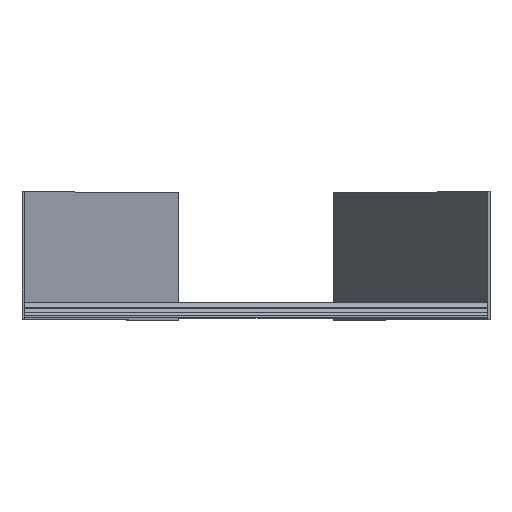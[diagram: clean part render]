
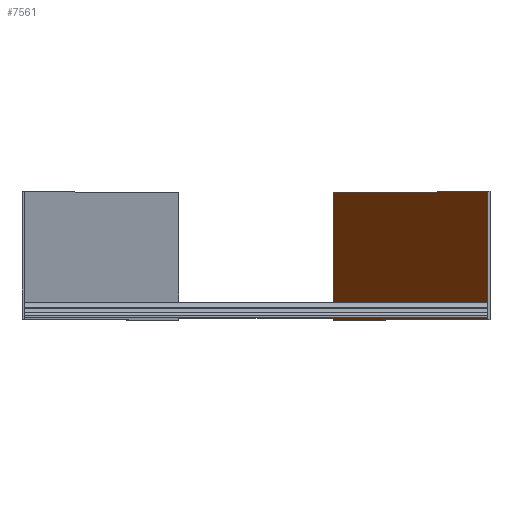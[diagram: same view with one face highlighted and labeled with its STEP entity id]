
A CAD part, top view. The second image highlights one B-rep face of the part: STEP entity #7561.
In plain terms, the highlighted planar face has unit normal (-0.881, 0, 0.472).
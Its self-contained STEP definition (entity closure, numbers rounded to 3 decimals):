
#89 = CARTESIAN_POINT ( 'NONE',  ( 224.822, 0., -0.332 ) ) ;
#216 = VECTOR ( 'NONE', #3636, 1000. ) ;
#492 = CARTESIAN_POINT ( 'NONE',  ( 75.415, 0., -279.226 ) ) ;
#806 = CARTESIAN_POINT ( 'NONE',  ( 225., 124., 0. ) ) ;
#997 = CARTESIAN_POINT ( 'NONE',  ( 75.415, 124., -279.226 ) ) ;
#1039 = VERTEX_POINT ( 'NONE', #492 ) ;
#1429 = EDGE_CURVE ( 'NONE', #3442, #1915, #7431, .T. ) ;
#1430 = CARTESIAN_POINT ( 'NONE',  ( 224.822, 124., -0.332 ) ) ;
#1888 = ORIENTED_EDGE ( 'NONE', *, *, #1429, .T. ) ;
#1915 = VERTEX_POINT ( 'NONE', #997 ) ;
#2085 = FACE_OUTER_BOUND ( 'NONE', #7203, .T. ) ;
#2853 = VECTOR ( 'NONE', #4488, 1000. ) ;
#3442 = VERTEX_POINT ( 'NONE', #1430 ) ;
#3636 = DIRECTION ( 'NONE',  ( 0., 1., 0. ) ) ;
#3817 = PLANE ( 'NONE',  #5478 ) ;
#3915 = EDGE_CURVE ( 'NONE', #4232, #3442, #4957, .T. ) ;
#3984 = LINE ( 'NONE', #4568, #2853 ) ;
#4064 = VECTOR ( 'NONE', #5694, 1000. ) ;
#4232 = VERTEX_POINT ( 'NONE', #89 ) ;
#4279 = DIRECTION ( 'NONE',  ( 0.472, 0., 0.881 ) ) ;
#4488 = DIRECTION ( 'NONE',  ( -0.472, 0., -0.881 ) ) ;
#4568 = CARTESIAN_POINT ( 'NONE',  ( 225., 0., 0. ) ) ;
#4957 = LINE ( 'NONE', #7308, #216 ) ;
#5321 = VECTOR ( 'NONE', #7450, 1000. ) ;
#5442 = ORIENTED_EDGE ( 'NONE', *, *, #3915, .T. ) ;
#5478 = AXIS2_PLACEMENT_3D ( 'NONE', #806, #7212, #4279 ) ;
#5640 = CARTESIAN_POINT ( 'NONE',  ( 75.415, 0., -279.226 ) ) ;
#5694 = DIRECTION ( 'NONE',  ( -0.472, 0., -0.881 ) ) ;
#5811 = ORIENTED_EDGE ( 'NONE', *, *, #6042, .F. ) ;
#6042 = EDGE_CURVE ( 'NONE', #4232, #1039, #3984, .T. ) ;
#6213 = LINE ( 'NONE', #5640, #5321 ) ;
#6261 = ORIENTED_EDGE ( 'NONE', *, *, #6473, .F. ) ;
#6270 = CARTESIAN_POINT ( 'NONE',  ( 225., 124., 0. ) ) ;
#6473 = EDGE_CURVE ( 'NONE', #1039, #1915, #6213, .T. ) ;
#7203 = EDGE_LOOP ( 'NONE', ( #6261, #5811, #5442, #1888 ) ) ;
#7212 = DIRECTION ( 'NONE',  ( -0.881, 0., 0.472 ) ) ;
#7308 = CARTESIAN_POINT ( 'NONE',  ( 224.822, 0., -0.332 ) ) ;
#7431 = LINE ( 'NONE', #6270, #4064 ) ;
#7450 = DIRECTION ( 'NONE',  ( 0., 1., 0. ) ) ;
#7561 = ADVANCED_FACE ( 'NONE', ( #2085 ), #3817, .T. ) ;
